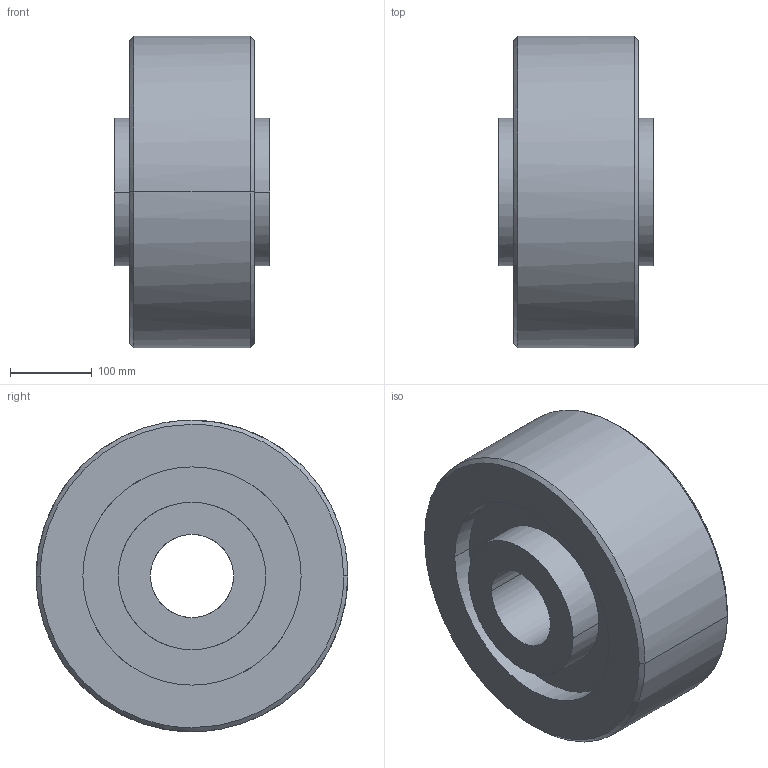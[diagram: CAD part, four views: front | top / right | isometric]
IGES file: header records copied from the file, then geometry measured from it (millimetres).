
Global section: native system: Kubotek KeyCreator; preprocessor: KCM Version 1.1.1442.0; author: KeyCreator User; organization: Self; date: 20170712.060011; units: inch
Bounding box: 190.5 x 381 x 381 mm (x, y, z)
Surface area: 541003.3 mm2 (no closed solid volume)
Topology: 0 solids, 0 shells, 22 faces, 144 edges, 144 vertices
Faces by surface type: bspline 22
